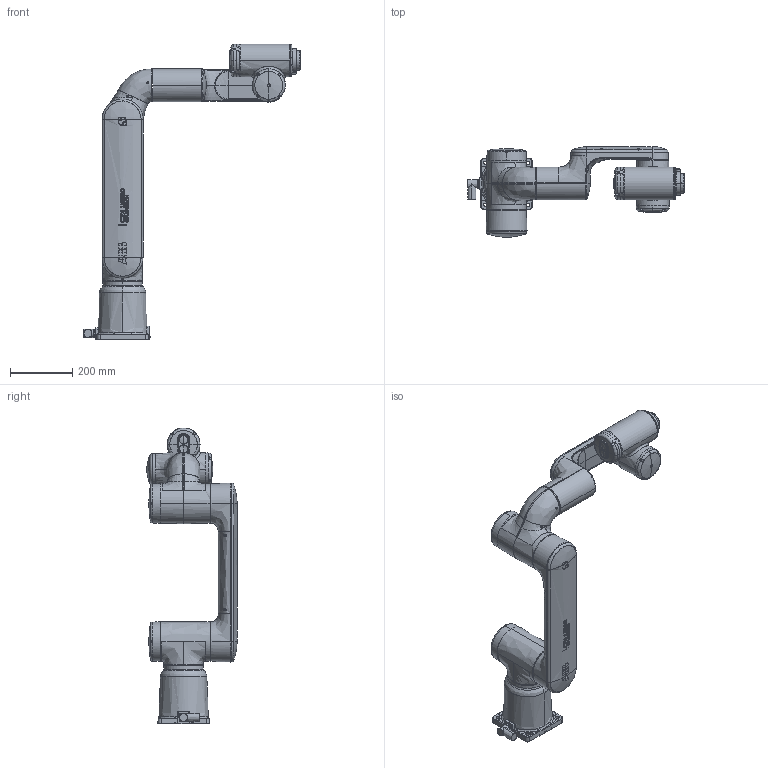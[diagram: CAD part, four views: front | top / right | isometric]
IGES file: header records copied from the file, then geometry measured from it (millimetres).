
Start section: SolidWorks IGES file using analytic representation for surfaces
Global section: file name: C:\TFS\Small Robots\Madeira\03.Design working\RS Model\20210125\CRB15000_5kg-950_OmniCore_rev00.igs; native system: SolidWorks 2018; preprocessor: SolidWorks 2018; author: CNTAFEN; date: 210129.140410; units: millimetre
Bounding box: 695.5 x 290.2 x 951.75 mm (x, y, z)
Surface area: 919776.8 mm2 (no closed solid volume)
Topology: 0 solids, 0 shells, 1672 faces, 28787 edges, 28767 vertices
Faces by surface type: bspline 1100, revolution 572
